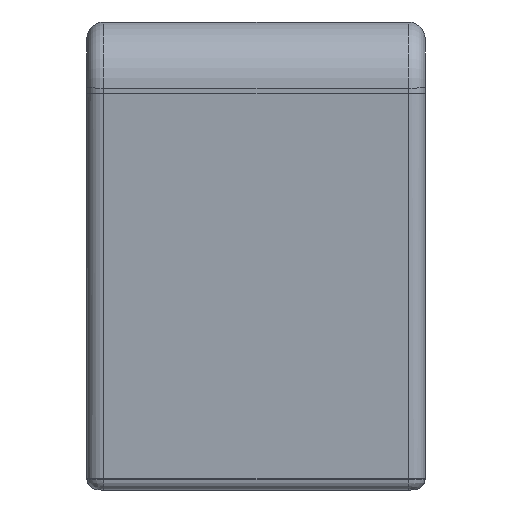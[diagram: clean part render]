
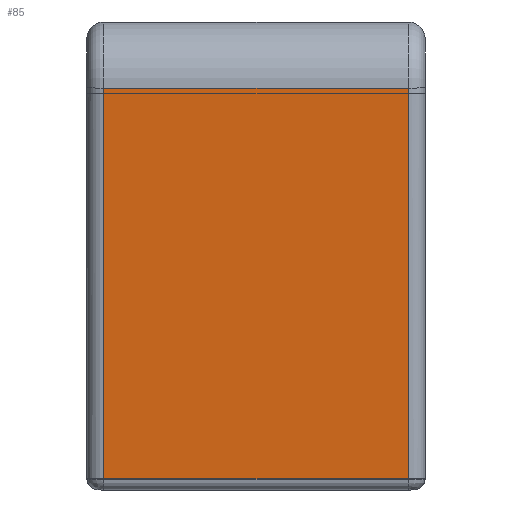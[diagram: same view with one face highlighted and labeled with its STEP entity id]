
A CAD part, left-side view. The second image highlights one B-rep face of the part: STEP entity #85.
In plain terms, the highlighted planar face has unit normal (-0.998, 0, -0.067).
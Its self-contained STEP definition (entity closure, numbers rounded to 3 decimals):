
#85 = ADVANCED_FACE ( 'NONE', ( #1062 ), #4545, .T. ) ;
#343 = EDGE_CURVE ( 'NONE', #3205, #3207, #809, .T. ) ;
#344 = EDGE_CURVE ( 'NONE', #3207, #3210, #807, .T. ) ;
#345 = EDGE_CURVE ( 'NONE', #3210, #3211, #805, .T. ) ;
#346 = EDGE_CURVE ( 'NONE', #3205, #3211, #803, .T. ) ;
#502 = EDGE_LOOP ( 'NONE', ( #1599, #1600, #1601, #1602 ) ) ;
#802 = VECTOR ( 'NONE', #2651, 1000. ) ;
#803 = LINE ( 'NONE', #2650, #802 ) ;
#804 = VECTOR ( 'NONE', #2647, 1000. ) ;
#805 = LINE ( 'NONE', #2645, #804 ) ;
#806 = VECTOR ( 'NONE', #2642, 1000. ) ;
#807 = LINE ( 'NONE', #2641, #806 ) ;
#808 = VECTOR ( 'NONE', #2638, 1000. ) ;
#809 = LINE ( 'NONE', #2636, #808 ) ;
#1062 = FACE_OUTER_BOUND ( 'NONE', #502, .T. ) ;
#1599 = ORIENTED_EDGE ( 'NONE', *, *, #343, .T. ) ;
#1600 = ORIENTED_EDGE ( 'NONE', *, *, #344, .T. ) ;
#1601 = ORIENTED_EDGE ( 'NONE', *, *, #345, .T. ) ;
#1602 = ORIENTED_EDGE ( 'NONE', *, *, #346, .F. ) ;
#1707 = AXIS2_PLACEMENT_3D ( 'NONE', #4546, #4547, #4548 ) ;
#2636 = CARTESIAN_POINT ( 'NONE',  ( -418., 13.5, -7. ) ) ;
#2638 = DIRECTION ( 'NONE',  ( 0.067, 0., -0.998 ) ) ;
#2641 = CARTESIAN_POINT ( 'NONE',  ( -418.063, 15., -6.067 ) ) ;
#2642 = DIRECTION ( 'NONE',  ( 0., -1., 0. ) ) ;
#2645 = CARTESIAN_POINT ( 'NONE',  ( -420.388, -13.5, 28.632 ) ) ;
#2647 = DIRECTION ( 'NONE',  ( -0.067, 0., 0.998 ) ) ;
#2650 = CARTESIAN_POINT ( 'NONE',  ( -420.388, 15., 28.632 ) ) ;
#2651 = DIRECTION ( 'NONE',  ( 0., -1., 0. ) ) ;
#3205 = VERTEX_POINT ( 'NONE', #4964 ) ;
#3207 = VERTEX_POINT ( 'NONE', #4966 ) ;
#3210 = VERTEX_POINT ( 'NONE', #4969 ) ;
#3211 = VERTEX_POINT ( 'NONE', #4970 ) ;
#4545 = PLANE ( 'NONE',  #1707 ) ;
#4546 = CARTESIAN_POINT ( 'NONE',  ( -418., 15., -7. ) ) ;
#4547 = DIRECTION ( 'NONE',  ( -0.998, 0., -0.067 ) ) ;
#4548 = DIRECTION ( 'NONE',  ( -0.067, 0., 0.998 ) ) ;
#4964 = CARTESIAN_POINT ( 'NONE',  ( -420.388, 13.5, 28.632 ) ) ;
#4966 = CARTESIAN_POINT ( 'NONE',  ( -418.063, 13.5, -6.067 ) ) ;
#4969 = CARTESIAN_POINT ( 'NONE',  ( -418.063, -13.5, -6.067 ) ) ;
#4970 = CARTESIAN_POINT ( 'NONE',  ( -420.388, -13.5, 28.632 ) ) ;
